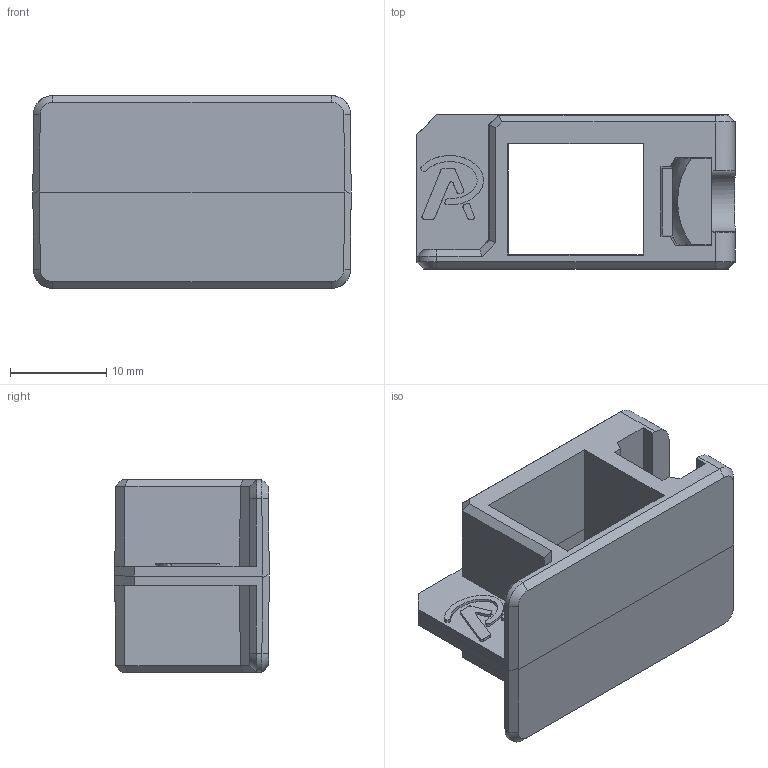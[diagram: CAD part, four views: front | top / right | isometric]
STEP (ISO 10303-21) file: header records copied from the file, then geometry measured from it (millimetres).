
FILE_DESCRIPTION (( 'STEP AP203' ), '1' );
FILE_NAME ('013.100.058.STEP', '2022-06-24T14:06:02', ( '' ), ( '' ), 'SwSTEP 2.0', 'SolidWorks 2021', '' );
FILE_SCHEMA (( 'CONFIG_CONTROL_DESIGN' ));
Length unit declared in the file: millimetre
Products named in the file (3): 013.100.058_L; 084.302.000 DADI ALUSIC 9x9_084.302.015; 013.100.058
Assembly tree (2 placements, depth 2):
  013.100.058
    013.100.058_L
    084.302.000 DADI ALUSIC 9x9_084.302.015
Bounding box: 33 x 16 x 20 mm (x, y, z)
Volume: 4706.2 mm3; surface area: 4194.4 mm2
Topology: 5 solids, 5 shells, 127 faces, 326 edges, 209 vertices
Faces by surface type: plane 88, cone 17, bspline 12, cylinder 8, sphere 2
Entity records: 4850 total; most frequent: CARTESIAN_POINT 1556, ORIENTED_EDGE 652, DIRECTION 567, EDGE_CURVE 326, LINE 231, VECTOR 231, VERTEX_POINT 209, AXIS2_PLACEMENT_3D 168
